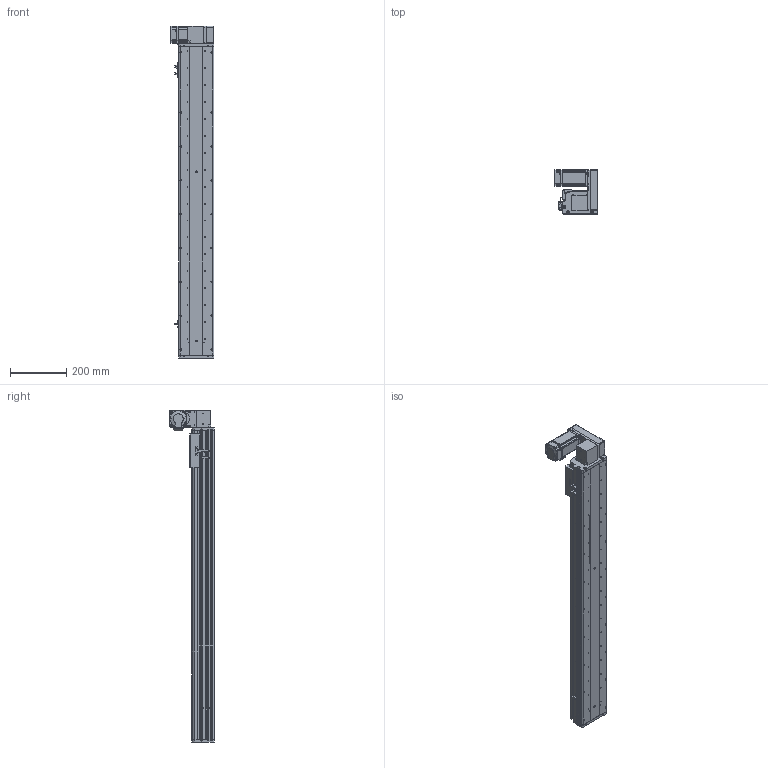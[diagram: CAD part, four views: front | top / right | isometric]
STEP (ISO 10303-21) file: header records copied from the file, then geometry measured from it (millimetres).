
FILE_DESCRIPTION (( 'STEP AP214' ), '1' );
FILE_NAME ('KSD125B-S900-MLU-CM.STEP', '2017-10-21T03:25:41', ( '微软用户' ), ( '微软中国' ), 'SwSTEP 2.0', 'SolidWorks 2014', '' );
FILE_SCHEMA (( 'AUTOMOTIVE_DESIGN' ));
Length unit declared in the file: millimetre
Products named in the file (17): KSD125B-S900-MLU-CM; 悵誘欶奻狟殏; 100宽马达安装板连板上下折丝杆同步带; HTPA30S3M150_A_H6_a佪裝蚚; HTPA30S3M150_A_H6_a萇儂蚚; 100宽马达安装板同步带左; KSD125模组900行程同步带-防尘盖; 125模组900行程同步带-底板; MHMD042G1CA_2_03; KSD125模组同步带-防撞垫2; 覜茼え68遵圉猾敕; U倰嫖萇假蚾璃; U倰嫖萇EEㄜSX672; KSD125模组同步带-防撞垫1; 前端板-125宽模组同步带; 125模组同步带-尾端板1; KSD125模组同步带-滑动座1
Assembly tree (20 placements, depth 2):
  KSD125B-S900-MLU-CM
    KSD125模组同步带-滑动座1
    125模组同步带-尾端板1
    前端板-125宽模组同步带
    KSD125模组同步带-防撞垫1
    U倰嫖萇EEㄜSX672  x3
    U倰嫖萇假蚾璃  x3
    覜茼え68遵圉猾敕
    KSD125模组同步带-防撞垫2
    MHMD042G1CA_2_03
    125模组900行程同步带-底板
    KSD125模组900行程同步带-防尘盖
    100宽马达安装板同步带左
    HTPA30S3M150_A_H6_a萇儂蚚
    HTPA30S3M150_A_H6_a佪裝蚚
    100宽马达安装板连板上下折丝杆同步带
    悵誘欶奻狟殏
Bounding box: 155 x 157.5 x 1177 mm (x, y, z)
Volume: 3659969 mm3; surface area: 1235760.4 mm2
Topology: 19 solids, 22 shells, 2297 faces, 6655 edges, 4398 vertices
Faces by surface type: cylinder 1444, plane 726, cone 105, bspline 22
Entity records: 81785 total; most frequent: CARTESIAN_POINT 16125, DIRECTION 12712, ORIENTED_EDGE 11830, EDGE_CURVE 5993, AXIS2_PLACEMENT_3D 4917, VERTEX_POINT 3990, VECTOR 2878, LINE 2878
